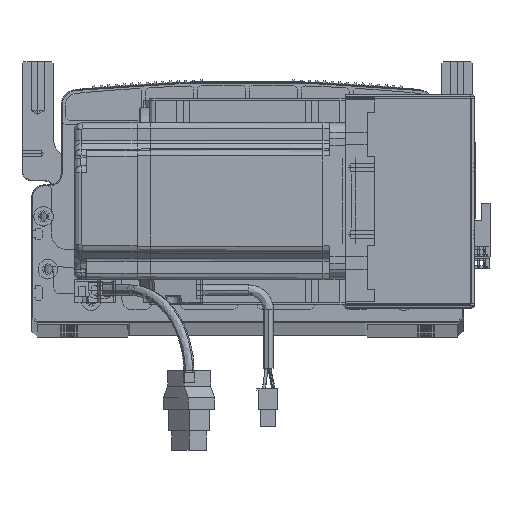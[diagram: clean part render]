
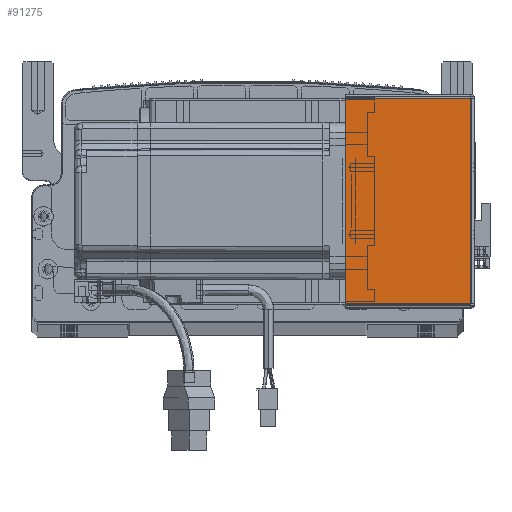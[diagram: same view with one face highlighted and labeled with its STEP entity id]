
A CAD part, top view. The second image highlights one B-rep face of the part: STEP entity #91275.
In plain terms, the highlighted planar face has unit normal (0, 0, 1) as drawn and (0, 0, -1) by its records, which use the part's own axes.
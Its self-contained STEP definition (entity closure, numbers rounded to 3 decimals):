
#2419 = DIRECTION ( 'NONE',  ( 1., 0., 0. ) ) ;
#4471 = VERTEX_POINT ( 'NONE', #91516 ) ;
#5129 = LINE ( 'NONE', #56426, #67909 ) ;
#11456 = DIRECTION ( 'NONE',  ( 1., 0., 0. ) ) ;
#14141 = DIRECTION ( 'NONE',  ( 0., -1., 0. ) ) ;
#18539 = CARTESIAN_POINT ( 'NONE',  ( 0.737, 105.293, -205.5 ) ) ;
#20790 = LINE ( 'NONE', #23481, #88457 ) ;
#22189 = CARTESIAN_POINT ( 'NONE',  ( 0.737, 0., -205.5 ) ) ;
#23481 = CARTESIAN_POINT ( 'NONE',  ( 0., 0.707, -205.5 ) ) ;
#28714 = EDGE_LOOP ( 'NONE', ( #71097, #63620, #69010, #97102 ) ) ;
#33847 = VECTOR ( 'NONE', #11456, 1000. ) ;
#34026 = EDGE_CURVE ( 'NONE', #4471, #70236, #20790, .T. ) ;
#34410 = VECTOR ( 'NONE', #14141, 1000. ) ;
#36291 = CARTESIAN_POINT ( 'NONE',  ( 64.5, 105.293, -205.5 ) ) ;
#41360 = LINE ( 'NONE', #50815, #33847 ) ;
#43066 = DIRECTION ( 'NONE',  ( 0., 0., 1. ) ) ;
#50815 = CARTESIAN_POINT ( 'NONE',  ( 0., 105.293, -205.5 ) ) ;
#55736 = LINE ( 'NONE', #22189, #34410 ) ;
#56341 = CARTESIAN_POINT ( 'NONE',  ( 64.5, 0.707, -205.5 ) ) ;
#56426 = CARTESIAN_POINT ( 'NONE',  ( 64.5, 0., -205.5 ) ) ;
#62766 = DIRECTION ( 'NONE',  ( 1., 0., 0. ) ) ;
#62882 = VERTEX_POINT ( 'NONE', #18539 ) ;
#63620 = ORIENTED_EDGE ( 'NONE', *, *, #81511, .T. ) ;
#65677 = VERTEX_POINT ( 'NONE', #36291 ) ;
#67909 = VECTOR ( 'NONE', #96990, 1000. ) ;
#69010 = ORIENTED_EDGE ( 'NONE', *, *, #93234, .T. ) ;
#70236 = VERTEX_POINT ( 'NONE', #56341 ) ;
#71097 = ORIENTED_EDGE ( 'NONE', *, *, #84645, .F. ) ;
#81511 = EDGE_CURVE ( 'NONE', #62882, #65677, #41360, .T. ) ;
#82651 = CARTESIAN_POINT ( 'NONE',  ( 0., 0., -205.5 ) ) ;
#84645 = EDGE_CURVE ( 'NONE', #62882, #4471, #55736, .T. ) ;
#86827 = FACE_OUTER_BOUND ( 'NONE', #28714, .T. ) ;
#88457 = VECTOR ( 'NONE', #62766, 1000. ) ;
#90985 = AXIS2_PLACEMENT_3D ( 'NONE', #82651, #43066, #2419 ) ;
#91275 = ADVANCED_FACE ( 'NONE', ( #86827 ), #91704, .F. ) ;
#91516 = CARTESIAN_POINT ( 'NONE',  ( 0.737, 0.707, -205.5 ) ) ;
#91704 = PLANE ( 'NONE',  #90985 ) ;
#93234 = EDGE_CURVE ( 'NONE', #65677, #70236, #5129, .T. ) ;
#96990 = DIRECTION ( 'NONE',  ( 0., -1., 0. ) ) ;
#97102 = ORIENTED_EDGE ( 'NONE', *, *, #34026, .F. ) ;
